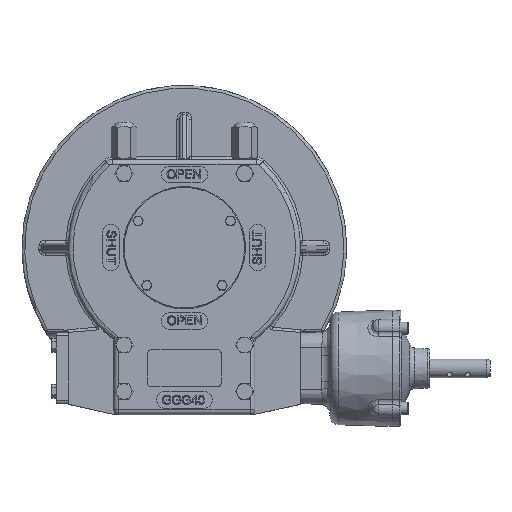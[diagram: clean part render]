
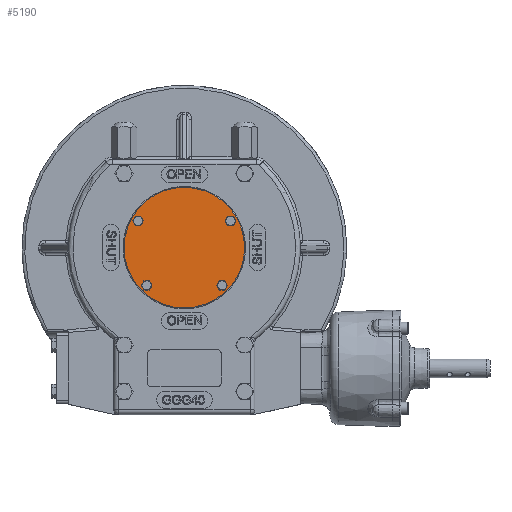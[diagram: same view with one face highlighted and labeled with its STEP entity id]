
A CAD part, top view. The second image highlights one B-rep face of the part: STEP entity #5190.
In plain terms, the highlighted planar face has unit normal (0, 0, 1).
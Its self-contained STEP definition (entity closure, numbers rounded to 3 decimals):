
#5190 = ADVANCED_FACE( '', ( #11526, #11527, #11528, #11529, #11530 ), #11531, .F. );
#11526 = FACE_BOUND( '', #29070, .T. );
#11527 = FACE_BOUND( '', #29071, .T. );
#11528 = FACE_BOUND( '', #29072, .T. );
#11529 = FACE_BOUND( '', #29073, .T. );
#11530 = FACE_OUTER_BOUND( '', #29074, .T. );
#11531 = PLANE( '', #29075 );
#29070 = EDGE_LOOP( '', ( #52502 ) );
#29071 = EDGE_LOOP( '', ( #52503 ) );
#29072 = EDGE_LOOP( '', ( #52504 ) );
#29073 = EDGE_LOOP( '', ( #52505 ) );
#29074 = EDGE_LOOP( '', ( #52506 ) );
#29075 = AXIS2_PLACEMENT_3D( '', #52507, #52508, #52509 );
#52502 = ORIENTED_EDGE( '', *, *, #67162, .T. );
#52503 = ORIENTED_EDGE( '', *, *, #61183, .T. );
#52504 = ORIENTED_EDGE( '', *, *, #66393, .T. );
#52505 = ORIENTED_EDGE( '', *, *, #66324, .T. );
#52506 = ORIENTED_EDGE( '', *, *, #65358, .F. );
#52507 = CARTESIAN_POINT( '', ( 0., 0., 119. ) );
#52508 = DIRECTION( '', ( 0., 0., -1. ) );
#52509 = DIRECTION( '', ( -1., 0., 0. ) );
#61183 = EDGE_CURVE( '', #69242, #69242, #69243, .T. );
#65358 = EDGE_CURVE( '', #76074, #76074, #76075, .T. );
#66324 = EDGE_CURVE( '', #77426, #77426, #77427, .T. );
#66393 = EDGE_CURVE( '', #77515, #77515, #77516, .T. );
#67162 = EDGE_CURVE( '', #78529, #78529, #78530, .T. );
#69242 = VERTEX_POINT( '', #81191 );
#69243 = CIRCLE( '', #81192, 5. );
#76074 = VERTEX_POINT( '', #98493 );
#76075 = CIRCLE( '', #98494, 65. );
#77426 = VERTEX_POINT( '', #102337 );
#77427 = CIRCLE( '', #102338, 5. );
#77515 = VERTEX_POINT( '', #102727 );
#77516 = CIRCLE( '', #102728, 5. );
#78529 = VERTEX_POINT( '', #105388 );
#78530 = CIRCLE( '', #105389, 5. );
#81191 = CARTESIAN_POINT( '', ( 45.659, -40.659, 119. ) );
#81192 = AXIS2_PLACEMENT_3D( '', #110489, #110490, #110491 );
#98493 = CARTESIAN_POINT( '', ( 65., 0., 119. ) );
#98494 = AXIS2_PLACEMENT_3D( '', #115197, #115198, #115199 );
#102337 = CARTESIAN_POINT( '', ( -44.796, 28.75, 119. ) );
#102338 = AXIS2_PLACEMENT_3D( '', #116227, #116228, #116229 );
#102727 = CARTESIAN_POINT( '', ( -35.659, -40.659, 119. ) );
#102728 = AXIS2_PLACEMENT_3D( '', #116325, #116326, #116327 );
#105388 = CARTESIAN_POINT( '', ( 54.796, 28.75, 119. ) );
#105389 = AXIS2_PLACEMENT_3D( '', #117079, #117080, #117081 );
#110489 = CARTESIAN_POINT( '', ( 40.659, -40.659, 119. ) );
#110490 = DIRECTION( '', ( 0., 0., -1. ) );
#110491 = DIRECTION( '', ( 1., 0., 0. ) );
#115197 = CARTESIAN_POINT( '', ( 0., 0., 119. ) );
#115198 = DIRECTION( '', ( 0., 0., -1. ) );
#115199 = DIRECTION( '', ( 1., 0., 0. ) );
#116227 = CARTESIAN_POINT( '', ( -49.796, 28.75, 119. ) );
#116228 = DIRECTION( '', ( 0., 0., -1. ) );
#116229 = DIRECTION( '', ( 1., 0., 0. ) );
#116325 = CARTESIAN_POINT( '', ( -40.659, -40.659, 119. ) );
#116326 = DIRECTION( '', ( 0., 0., -1. ) );
#116327 = DIRECTION( '', ( 1., 0., 0. ) );
#117079 = CARTESIAN_POINT( '', ( 49.796, 28.75, 119. ) );
#117080 = DIRECTION( '', ( 0., 0., -1. ) );
#117081 = DIRECTION( '', ( 1., 0., 0. ) );
